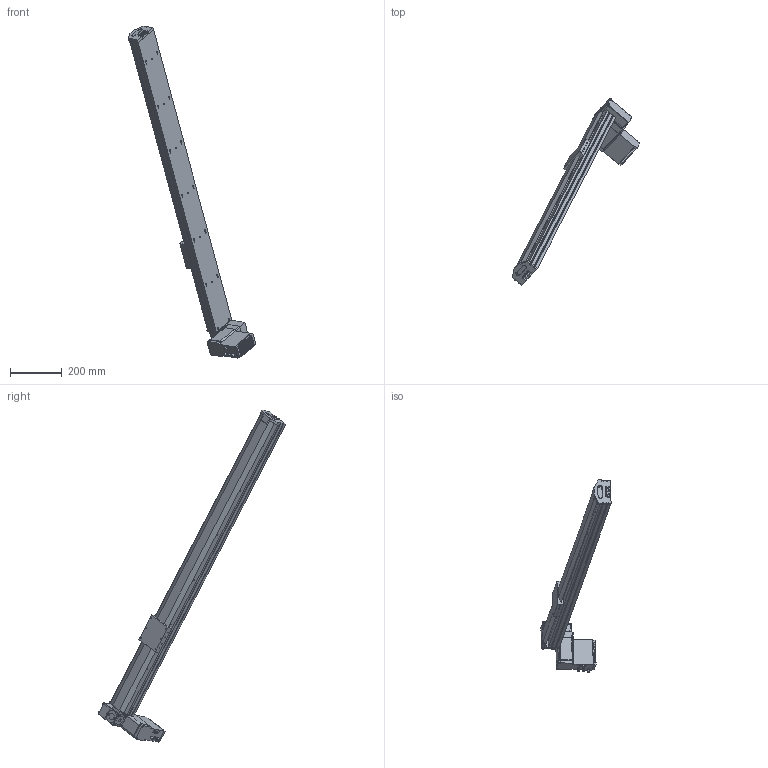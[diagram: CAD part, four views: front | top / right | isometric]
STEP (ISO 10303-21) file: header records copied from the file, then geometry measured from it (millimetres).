
FILE_DESCRIPTION (( 'STEP AP203' ), '1' );
FILE_NAME ('S10 CBH LU S1300.STEP', '2012-10-01T06:56:03', ( '' ), ( '' ), 'SwSTEP 2.0', 'SolidWorks 2010', '' );
FILE_SCHEMA (( 'CONFIG_CONTROL_DESIGN' ));
Length unit declared in the file: millimetre
Products named in the file (14): renvoi LH_Default; Plaque racord_Default; embout; palette tbh; MOTEUR GMI 61 ; S10 CBH LU S1300; plaque de bout s10_Default; cache t皻e axe_Default; cache t皻e_Default; Vis M5 L16-2_Default_1; vis M5 L12_Default; Cvis M5 L30_Default; vis M5 L5_Default; axe 1300
Assembly tree (24 placements, depth 2):
  S10 CBH LU S1300
    vis M5 L5_Default  x4
    Vis M5 L16-2_Default_1  x4
    cache t皻e_Default  x2
    vis M5 L12_Default  x4
    embout
    palette tbh
    plaque de bout s10_Default
    renvoi LH_Default
    Plaque racord_Default
    cache t皻e axe_Default
    Cvis M5 L30_Default  x2
    MOTEUR GMI 61 
    axe 1300
Bounding box: 495.41 x 726.91 x 1285.86 mm (x, y, z)
Volume: 7942899.1 mm3; surface area: 845625.7 mm2
Topology: 24 solids, 24 shells, 1072 faces, 2602 edges, 1612 vertices
Faces by surface type: plane 541, cylinder 384, cone 100, bspline 40, torus 7
Entity records: 26887 total; most frequent: CARTESIAN_POINT 4999, DIRECTION 4329, ORIENTED_EDGE 4024, EDGE_CURVE 2012, AXIS2_PLACEMENT_3D 1536, VERTEX_POINT 1300, VECTOR 1257, LINE 1257
